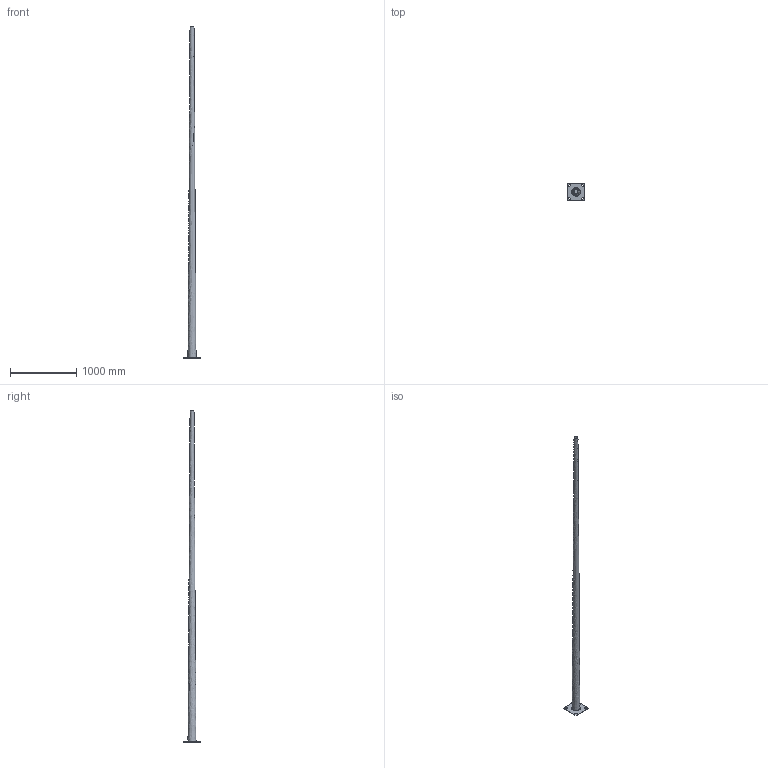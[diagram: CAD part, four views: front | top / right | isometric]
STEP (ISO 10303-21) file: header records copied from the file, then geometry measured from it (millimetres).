
FILE_DESCRIPTION(('FreeCAD Model'),'2;1');
FILE_NAME('Open CASCADE Shape Model','2024-12-18T14:16:55',(''),(''), 'Open CASCADE STEP processor 7.8','FreeCAD','Unknown');
FILE_SCHEMA(('AUTOMOTIVE_DESIGN { 1 0 10303 214 1 1 1 1 }'));
Length unit declared in the file: millimetre
Products named in the file (1): Body
Bounding box: 270 x 270 x 5000 mm (x, y, z)
Volume: 4485795.7 mm3; surface area: 2908980.9 mm2
Topology: 1 solids, 1 shells, 51 faces, 140 edges, 93 vertices
Faces by surface type: plane 32, cylinder 16, bspline 2, offset 1
Entity records: 3118 total; most frequent: CARTESIAN_POINT 1875, ORIENTED_EDGE 280, DIRECTION 198, EDGE_CURVE 140, VERTEX_POINT 93, LINE 68, VECTOR 68, AXIS2_PLACEMENT_3D 65
